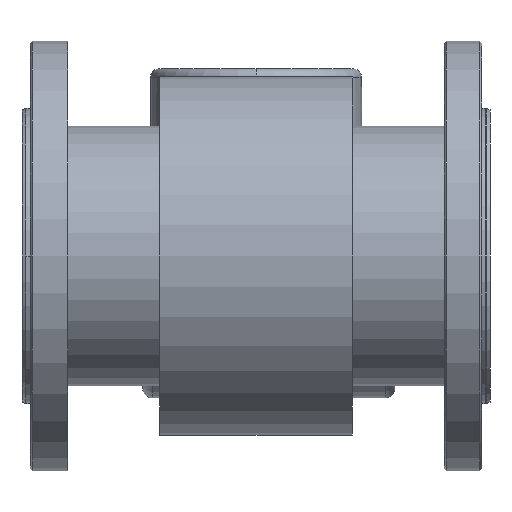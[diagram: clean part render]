
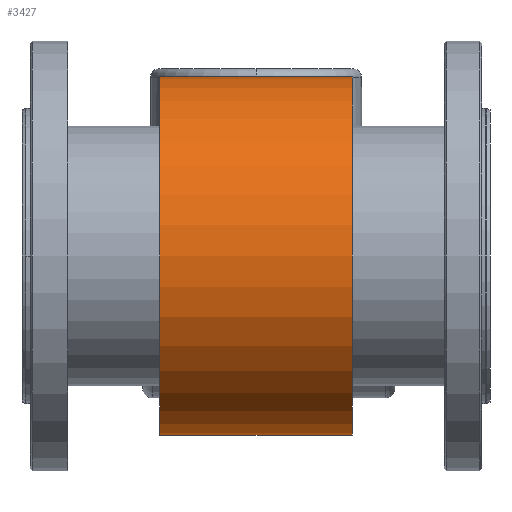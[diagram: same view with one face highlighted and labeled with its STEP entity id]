
A CAD part, front view. The second image highlights one B-rep face of the part: STEP entity #3427.
In plain terms, the highlighted cylindrical face has radius 96 mm (diameter 192 mm), a partial arc.
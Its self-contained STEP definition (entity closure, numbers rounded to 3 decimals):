
#90 = VERTEX_POINT ( 'NONE', #8512 ) ;
#620 = EDGE_CURVE ( 'NONE', #5605, #4239, #3295, .T. ) ;
#641 = EDGE_CURVE ( 'NONE', #90, #4985, #4665, .T. ) ;
#651 = ORIENTED_EDGE ( 'NONE', *, *, #8987, .T. ) ;
#800 = AXIS2_PLACEMENT_3D ( 'NONE', #1367, #5840, #3623 ) ;
#840 = CYLINDRICAL_SURFACE ( 'NONE', #4823, 96. ) ;
#1275 = DIRECTION ( 'NONE',  ( 0., 0., 1. ) ) ;
#1367 = CARTESIAN_POINT ( 'NONE',  ( 194.947, 186.84, 103.771 ) ) ;
#1515 = DIRECTION ( 'NONE',  ( -1., 0., 0. ) ) ;
#1853 = VECTOR ( 'NONE', #9058, 1000. ) ;
#2875 = EDGE_LOOP ( 'NONE', ( #7950, #5030, #651, #4019 ) ) ;
#3080 = CARTESIAN_POINT ( 'NONE',  ( 5.44, 186.84, 103.771 ) ) ;
#3295 = CIRCLE ( 'NONE', #5378, 96. ) ;
#3416 = LINE ( 'NONE', #6532, #8033 ) ;
#3427 = ADVANCED_FACE ( 'NONE', ( #4368 ), #840, .T. ) ;
#3623 = DIRECTION ( 'NONE',  ( 0., 0., 1. ) ) ;
#3820 = DIRECTION ( 'NONE',  ( -1., 0., 0. ) ) ;
#4019 = ORIENTED_EDGE ( 'NONE', *, *, #620, .F. ) ;
#4089 = CARTESIAN_POINT ( 'NONE',  ( 91.947, 186.84, 7.771 ) ) ;
#4239 = VERTEX_POINT ( 'NONE', #8693 ) ;
#4368 = FACE_OUTER_BOUND ( 'NONE', #2875, .T. ) ;
#4665 = CIRCLE ( 'NONE', #800, 96. ) ;
#4755 = EDGE_CURVE ( 'NONE', #90, #5605, #8271, .T. ) ;
#4823 = AXIS2_PLACEMENT_3D ( 'NONE', #3080, #3820, #7704 ) ;
#4985 = VERTEX_POINT ( 'NONE', #9353 ) ;
#5030 = ORIENTED_EDGE ( 'NONE', *, *, #641, .T. ) ;
#5349 = CARTESIAN_POINT ( 'NONE',  ( 5.44, 186.84, 7.771 ) ) ;
#5378 = AXIS2_PLACEMENT_3D ( 'NONE', #8534, #5608, #1275 ) ;
#5605 = VERTEX_POINT ( 'NONE', #4089 ) ;
#5608 = DIRECTION ( 'NONE',  ( -1., 0., 0. ) ) ;
#5840 = DIRECTION ( 'NONE',  ( -1., 0., 0. ) ) ;
#6532 = CARTESIAN_POINT ( 'NONE',  ( 5.44, 186.84, 199.771 ) ) ;
#7704 = DIRECTION ( 'NONE',  ( 0., 0., 1. ) ) ;
#7950 = ORIENTED_EDGE ( 'NONE', *, *, #4755, .F. ) ;
#8033 = VECTOR ( 'NONE', #1515, 1000. ) ;
#8271 = LINE ( 'NONE', #5349, #1853 ) ;
#8512 = CARTESIAN_POINT ( 'NONE',  ( 194.947, 186.84, 7.771 ) ) ;
#8534 = CARTESIAN_POINT ( 'NONE',  ( 91.947, 186.84, 103.771 ) ) ;
#8693 = CARTESIAN_POINT ( 'NONE',  ( 91.947, 186.84, 199.771 ) ) ;
#8987 = EDGE_CURVE ( 'NONE', #4985, #4239, #3416, .T. ) ;
#9058 = DIRECTION ( 'NONE',  ( -1., 0., 0. ) ) ;
#9353 = CARTESIAN_POINT ( 'NONE',  ( 194.947, 186.84, 199.771 ) ) ;
